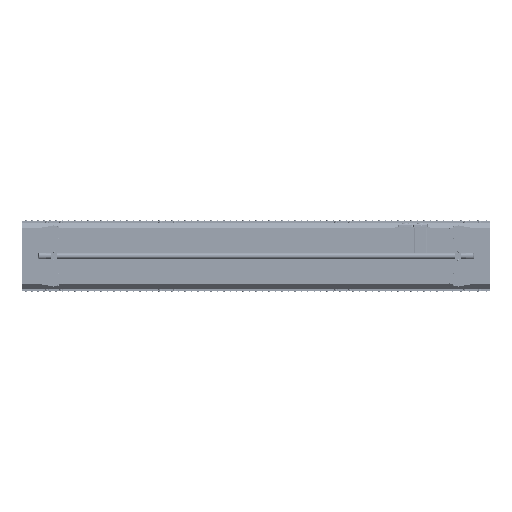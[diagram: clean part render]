
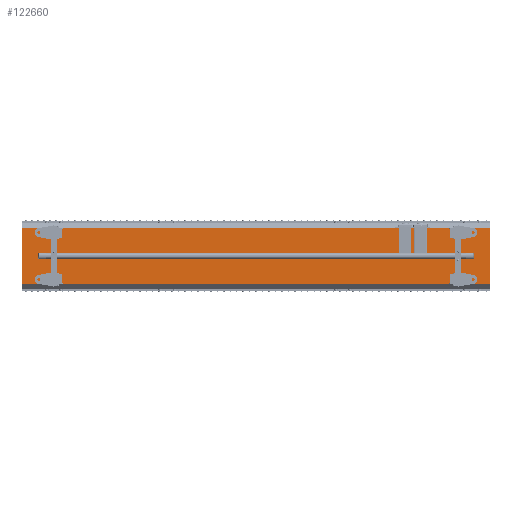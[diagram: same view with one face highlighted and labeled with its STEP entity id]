
A CAD part, front view. The second image highlights one B-rep face of the part: STEP entity #122660.
In plain terms, the highlighted planar face has unit normal (0, -1, 0).
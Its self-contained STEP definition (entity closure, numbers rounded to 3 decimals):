
#186 = LINE ( 'NONE', #110928, #48915 ) ;
#2417 = ORIENTED_EDGE ( 'NONE', *, *, #49938, .T. ) ;
#4030 = VERTEX_POINT ( 'NONE', #45819 ) ;
#19454 = CARTESIAN_POINT ( 'NONE',  ( 1985., -215.213, 119.787 ) ) ;
#30475 = CARTESIAN_POINT ( 'NONE',  ( 2337.908, -215.213, 119.787 ) ) ;
#31793 = CARTESIAN_POINT ( 'NONE',  ( 1985., -215.213, -119.787 ) ) ;
#33616 = VERTEX_POINT ( 'NONE', #31793 ) ;
#43515 = CARTESIAN_POINT ( 'NONE',  ( 1985., -215.213, -119.787 ) ) ;
#43777 = VERTEX_POINT ( 'NONE', #75045 ) ;
#45678 = PLANE ( 'NONE',  #71175 ) ;
#45819 = CARTESIAN_POINT ( 'NONE',  ( 1985., -215.213, 119.787 ) ) ;
#48915 = VECTOR ( 'NONE', #59412, 1000. ) ;
#49938 = EDGE_CURVE ( 'NONE', #4030, #83547, #124107, .T. ) ;
#54770 = CARTESIAN_POINT ( 'NONE',  ( 0., -215.213, 119.787 ) ) ;
#55938 = LINE ( 'NONE', #19454, #114232 ) ;
#59412 = DIRECTION ( 'NONE',  ( 0., 0., -1. ) ) ;
#59667 = ORIENTED_EDGE ( 'NONE', *, *, #114207, .F. ) ;
#61423 = FACE_OUTER_BOUND ( 'NONE', #82242, .T. ) ;
#63728 = DIRECTION ( 'NONE',  ( -1., 0., 0. ) ) ;
#68732 = VECTOR ( 'NONE', #94022, 1000. ) ;
#71175 = AXIS2_PLACEMENT_3D ( 'NONE', #108237, #78204, #88405 ) ;
#72649 = DIRECTION ( 'NONE',  ( 0., 0., 1. ) ) ;
#73314 = ORIENTED_EDGE ( 'NONE', *, *, #90040, .T. ) ;
#75045 = CARTESIAN_POINT ( 'NONE',  ( 0., -215.213, -119.787 ) ) ;
#78204 = DIRECTION ( 'NONE',  ( 0., 1., 0. ) ) ;
#82242 = EDGE_LOOP ( 'NONE', ( #59667, #102007, #2417, #73314 ) ) ;
#83547 = VERTEX_POINT ( 'NONE', #54770 ) ;
#86839 = LINE ( 'NONE', #43515, #126341 ) ;
#88405 = DIRECTION ( 'NONE',  ( 0., 0., 1. ) ) ;
#90040 = EDGE_CURVE ( 'NONE', #83547, #43777, #186, .T. ) ;
#94022 = DIRECTION ( 'NONE',  ( -1., 0., 0. ) ) ;
#97076 = EDGE_CURVE ( 'NONE', #33616, #4030, #55938, .T. ) ;
#102007 = ORIENTED_EDGE ( 'NONE', *, *, #97076, .T. ) ;
#108237 = CARTESIAN_POINT ( 'NONE',  ( 2337.908, -215.213, 119.787 ) ) ;
#110928 = CARTESIAN_POINT ( 'NONE',  ( 0., -215.213, 119.787 ) ) ;
#114207 = EDGE_CURVE ( 'NONE', #33616, #43777, #86839, .T. ) ;
#114232 = VECTOR ( 'NONE', #72649, 1000. ) ;
#122660 = ADVANCED_FACE ( 'NONE', ( #61423 ), #45678, .F. ) ;
#124107 = LINE ( 'NONE', #30475, #68732 ) ;
#126341 = VECTOR ( 'NONE', #63728, 1000. ) ;
